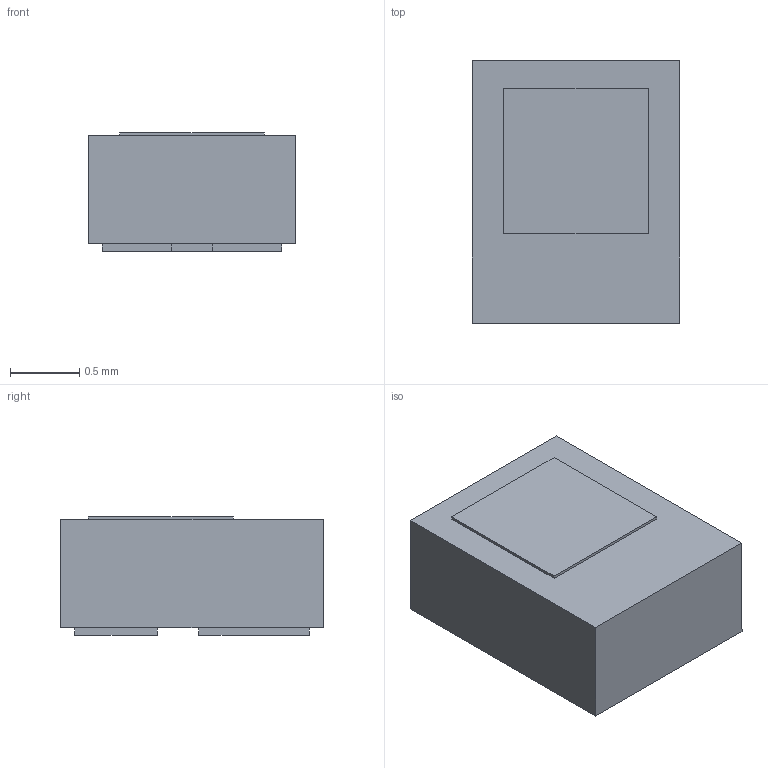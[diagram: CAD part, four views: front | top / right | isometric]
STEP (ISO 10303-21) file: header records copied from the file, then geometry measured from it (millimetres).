
FILE_DESCRIPTION(('STEP AP203'),'1');
FILE_NAME('D:/3. Prosource/250722 JKZY-TZHS 3D Website/JKZY-TZHS_220725.stp','2025-07-22T02:54:37',(' '),(' '),'Spatial InterOp 3D',' ',' ');
FILE_SCHEMA(('CONFIG_CONTROL_DESIGN'));
Length unit declared in the file: millimetre
Products named in the file (1): 1
Bounding box: 1.5 x 1.9 x 0.86 mm (x, y, z)
Volume: 2.3 mm3; surface area: 11.6 mm2
Topology: 1 solids, 1 shells, 26 faces, 60 edges, 40 vertices
Faces by surface type: plane 26
Entity records: 768 total; most frequent: CARTESIAN_POINT 127, ORIENTED_EDGE 120, DIRECTION 114, EDGE_CURVE 60, LINE 60, VECTOR 60, VERTEX_POINT 40, EDGE_LOOP 30
